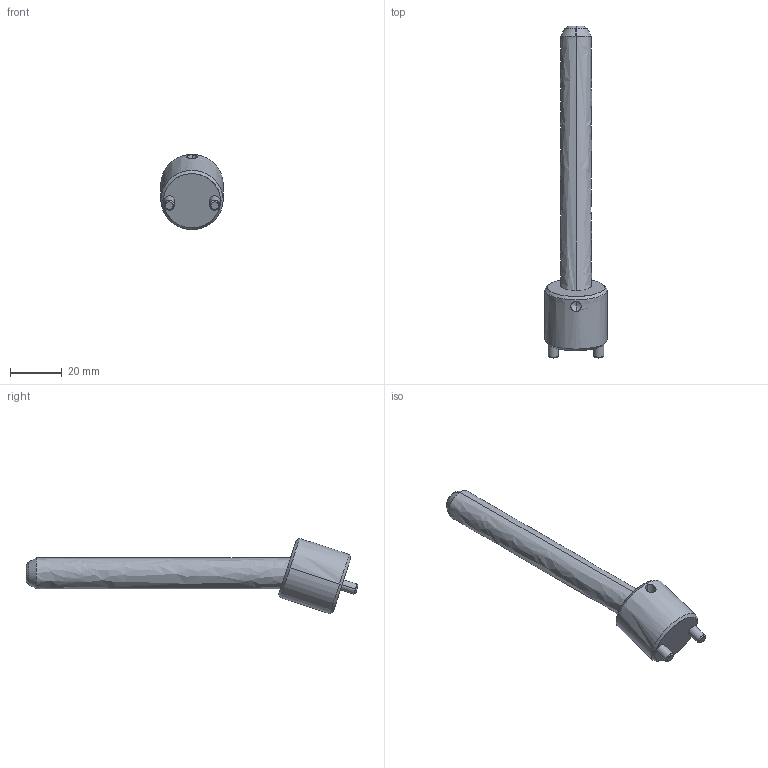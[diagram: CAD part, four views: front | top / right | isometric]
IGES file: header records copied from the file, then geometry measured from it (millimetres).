
Start section: START RECORD GO HERE.
Global section: file name: CI1812100.igs; native system: DASSAULT SYSTEMES CATIA V5 R20 - www.3ds.com; preprocessor: CATIA Version 5 Release 20 ; author: r.borello; organization: CFTORINO; date: 20190621.143621; units: millimetre
Bounding box: 24 x 127.87 x 29.01 mm (x, y, z)
Surface area: 7960 mm2 (no closed solid volume)
Topology: 0 solids, 0 shells, 39 faces, 162 edges, 160 vertices
Faces by surface type: revolution 32, plane 7
